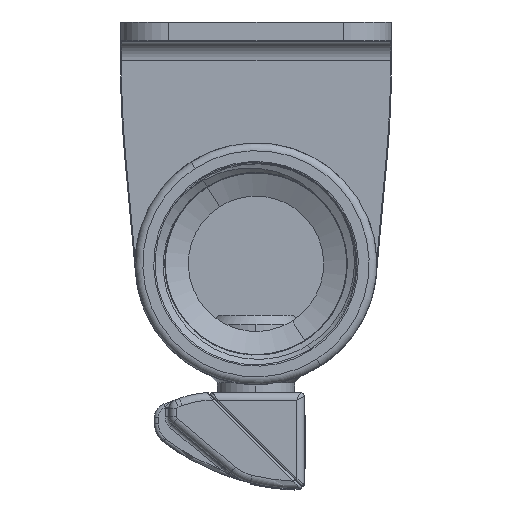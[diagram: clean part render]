
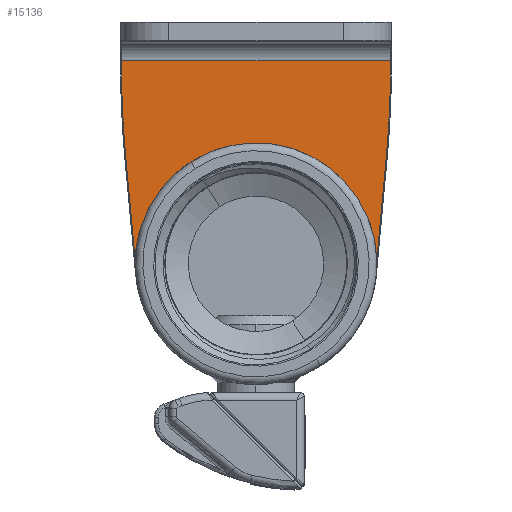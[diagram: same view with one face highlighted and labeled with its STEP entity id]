
A CAD part, left-side view. The second image highlights one B-rep face of the part: STEP entity #15136.
In plain terms, the highlighted planar face has unit normal (-1, 0, 0).
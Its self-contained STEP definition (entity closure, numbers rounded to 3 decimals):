
#497 = CARTESIAN_POINT ( 'NONE',  ( -6.507, -101.361, 28.296 ) ) ;
#896 = ORIENTED_EDGE ( 'NONE', *, *, #57733, .T. ) ;
#1105 = VECTOR ( 'NONE', #52200, 1000. ) ;
#1293 = CARTESIAN_POINT ( 'NONE',  ( -6.507, -100.937, 37.491 ) ) ;
#3815 = CARTESIAN_POINT ( 'NONE',  ( -6.507, -114.837, 17.227 ) ) ;
#5074 = ORIENTED_EDGE ( 'NONE', *, *, #42937, .T. ) ;
#5284 = AXIS2_PLACEMENT_3D ( 'NONE', #3815, #45005, #14754 ) ;
#5773 = EDGE_CURVE ( 'NONE', #15647, #67253, #54045, .T. ) ;
#7097 = ORIENTED_EDGE ( 'NONE', *, *, #5773, .T. ) ;
#7897 = VECTOR ( 'NONE', #22315, 1000. ) ;
#8961 = CIRCLE ( 'NONE', #58787, 99.9 ) ;
#10154 = VERTEX_POINT ( 'NONE', #20831 ) ;
#10335 = DIRECTION ( 'NONE',  ( 0., 1., 0. ) ) ;
#10396 = CARTESIAN_POINT ( 'NONE',  ( -6.507, -128.737, 37.491 ) ) ;
#11256 = CIRCLE ( 'NONE', #17737, 10.6 ) ;
#11610 = CARTESIAN_POINT ( 'NONE',  ( -6.507, -127.184, 16.086 ) ) ;
#12336 = CARTESIAN_POINT ( 'NONE',  ( -6.507, -114.837, 17.227 ) ) ;
#12385 = VERTEX_POINT ( 'NONE', #41403 ) ;
#12472 = CIRCLE ( 'NONE', #48420, 99.9 ) ;
#12556 = FACE_BOUND ( 'NONE', #49059, .T. ) ;
#13274 = VERTEX_POINT ( 'NONE', #59994 ) ;
#13387 = EDGE_LOOP ( 'NONE', ( #42173, #5074, #896, #7097, #19311, #19611, #26195, #17034 ) ) ;
#13702 = ORIENTED_EDGE ( 'NONE', *, *, #25194, .T. ) ;
#14405 = CARTESIAN_POINT ( 'NONE',  ( -6.507, -28.837, 37.491 ) ) ;
#14754 = DIRECTION ( 'NONE',  ( 0., 1., 0. ) ) ;
#15136 = ADVANCED_FACE ( 'NONE', ( #12556, #21492 ), #34533, .T. ) ;
#15244 = CIRCLE ( 'NONE', #21465, 10.6 ) ;
#15581 = CARTESIAN_POINT ( 'NONE',  ( -6.507, -114.837, 17.227 ) ) ;
#15647 = VERTEX_POINT ( 'NONE', #20162 ) ;
#16552 = LINE ( 'NONE', #46255, #48305 ) ;
#16646 = CARTESIAN_POINT ( 'NONE',  ( -6.507, -104.237, 17.227 ) ) ;
#17034 = ORIENTED_EDGE ( 'NONE', *, *, #18813, .T. ) ;
#17705 = CARTESIAN_POINT ( 'NONE',  ( -6.507, -114.837, 38.227 ) ) ;
#17737 = AXIS2_PLACEMENT_3D ( 'NONE', #12336, #64738, #49231 ) ;
#17918 = VERTEX_POINT ( 'NONE', #10396 ) ;
#18583 = VECTOR ( 'NONE', #28164, 1000. ) ;
#18813 = EDGE_CURVE ( 'NONE', #38840, #12385, #16552, .T. ) ;
#19311 = ORIENTED_EDGE ( 'NONE', *, *, #41849, .T. ) ;
#19611 = ORIENTED_EDGE ( 'NONE', *, *, #50123, .T. ) ;
#20162 = CARTESIAN_POINT ( 'NONE',  ( -6.507, -100.937, 38.227 ) ) ;
#20813 = DIRECTION ( 'NONE',  ( -1., 0., 0. ) ) ;
#20831 = CARTESIAN_POINT ( 'NONE',  ( -6.507, -128.737, 38.227 ) ) ;
#21465 = AXIS2_PLACEMENT_3D ( 'NONE', #26475, #31043, #10335 ) ;
#21492 = FACE_OUTER_BOUND ( 'NONE', #13387, .T. ) ;
#22315 = DIRECTION ( 'NONE',  ( 0., -0.092, -0.996 ) ) ;
#25194 = EDGE_CURVE ( 'NONE', #36912, #38720, #11256, .T. ) ;
#25272 = AXIS2_PLACEMENT_3D ( 'NONE', #15581, #20813, #56582 ) ;
#26195 = ORIENTED_EDGE ( 'NONE', *, *, #46052, .T. ) ;
#26475 = CARTESIAN_POINT ( 'NONE',  ( -6.507, -114.837, 17.227 ) ) ;
#26669 = CARTESIAN_POINT ( 'NONE',  ( -6.507, -100.937, 17.227 ) ) ;
#28164 = DIRECTION ( 'NONE',  ( 0., 1., 0. ) ) ;
#29641 = DIRECTION ( 'NONE',  ( -1., 0., 0. ) ) ;
#31043 = DIRECTION ( 'NONE',  ( 1., 0., 0. ) ) ;
#31411 = DIRECTION ( 'NONE',  ( 0., -0.092, 0.996 ) ) ;
#33986 = DIRECTION ( 'NONE',  ( -1., 0., 0. ) ) ;
#34533 = PLANE ( 'NONE',  #5284 ) ;
#36821 = ORIENTED_EDGE ( 'NONE', *, *, #50742, .T. ) ;
#36866 = DIRECTION ( 'NONE',  ( 0., 0., 1. ) ) ;
#36912 = VERTEX_POINT ( 'NONE', #57024 ) ;
#37089 = CARTESIAN_POINT ( 'NONE',  ( -6.507, -128.737, 17.227 ) ) ;
#37469 = CIRCLE ( 'NONE', #25272, 12.4 ) ;
#38720 = VERTEX_POINT ( 'NONE', #16646 ) ;
#38840 = VERTEX_POINT ( 'NONE', #11610 ) ;
#39643 = LINE ( 'NONE', #64010, #7897 ) ;
#40590 = LINE ( 'NONE', #17705, #18583 ) ;
#41403 = CARTESIAN_POINT ( 'NONE',  ( -6.507, -128.313, 28.296 ) ) ;
#41849 = EDGE_CURVE ( 'NONE', #67253, #53868, #8961, .T. ) ;
#42173 = ORIENTED_EDGE ( 'NONE', *, *, #64118, .T. ) ;
#42937 = EDGE_CURVE ( 'NONE', #17918, #10154, #50732, .T. ) ;
#45005 = DIRECTION ( 'NONE',  ( -1., 0., 0. ) ) ;
#46052 = EDGE_CURVE ( 'NONE', #13274, #38840, #37469, .T. ) ;
#46255 = CARTESIAN_POINT ( 'NONE',  ( -6.507, -127.184, 16.086 ) ) ;
#48305 = VECTOR ( 'NONE', #31411, 1000. ) ;
#48420 = AXIS2_PLACEMENT_3D ( 'NONE', #14405, #29641, #51062 ) ;
#49059 = EDGE_LOOP ( 'NONE', ( #36821, #13702 ) ) ;
#49231 = DIRECTION ( 'NONE',  ( 0., 1., 0. ) ) ;
#49709 = DIRECTION ( 'NONE',  ( 0., 1., 0. ) ) ;
#50123 = EDGE_CURVE ( 'NONE', #53868, #13274, #39643, .T. ) ;
#50732 = LINE ( 'NONE', #37089, #59684 ) ;
#50742 = EDGE_CURVE ( 'NONE', #38720, #36912, #15244, .T. ) ;
#51062 = DIRECTION ( 'NONE',  ( 0., 1., 0. ) ) ;
#52200 = DIRECTION ( 'NONE',  ( 0., 0., -1. ) ) ;
#53868 = VERTEX_POINT ( 'NONE', #497 ) ;
#54045 = LINE ( 'NONE', #26669, #1105 ) ;
#55395 = CARTESIAN_POINT ( 'NONE',  ( -6.507, -200.837, 37.491 ) ) ;
#56582 = DIRECTION ( 'NONE',  ( 0., 1., 0. ) ) ;
#57024 = CARTESIAN_POINT ( 'NONE',  ( -6.507, -125.437, 17.227 ) ) ;
#57733 = EDGE_CURVE ( 'NONE', #10154, #15647, #40590, .T. ) ;
#58787 = AXIS2_PLACEMENT_3D ( 'NONE', #55395, #33986, #49709 ) ;
#59684 = VECTOR ( 'NONE', #36866, 1000. ) ;
#59994 = CARTESIAN_POINT ( 'NONE',  ( -6.507, -102.489, 16.086 ) ) ;
#64010 = CARTESIAN_POINT ( 'NONE',  ( -6.507, -102.489, 16.086 ) ) ;
#64118 = EDGE_CURVE ( 'NONE', #12385, #17918, #12472, .T. ) ;
#64738 = DIRECTION ( 'NONE',  ( 1., 0., 0. ) ) ;
#67253 = VERTEX_POINT ( 'NONE', #1293 ) ;
